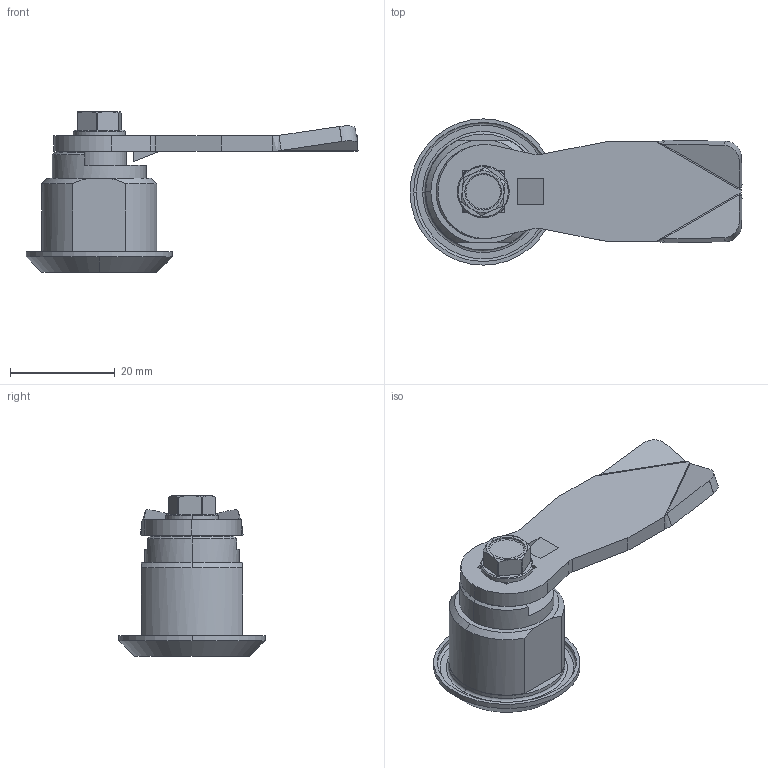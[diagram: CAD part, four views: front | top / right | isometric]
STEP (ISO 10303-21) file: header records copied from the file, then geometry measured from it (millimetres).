
FILE_DESCRIPTION (( 'STEP AP214' ), '1' );
FILE_NAME ('ZZR19.STEP', '2010-02-22T15:53:15', ( '£ukaszC' ), ( '' ), 'SwSTEP 2.0', 'SolidWorks 2008', '' );
FILE_SCHEMA (( 'AUTOMOTIVE_DESIGN' ));
Length unit declared in the file: millimetre
Products named in the file (5): 2.ZZR19.02.00.00_Domyœlna; 2.ZZR19.01.00.00_Domyœlna; M5 x 8_Domyœlna; 1C_J-10018_00_03_00_Domyœlna; ZZR19
Assembly tree (4 placements, depth 2):
  ZZR19
    2.ZZR19.02.00.00_Domyœlna
    M5 x 8_Domyœlna
    2.ZZR19.01.00.00_Domyœlna
    1C_J-10018_00_03_00_Domyœlna
Bounding box: 63.54 x 28 x 30.8 mm (x, y, z)
Volume: 10011.7 mm3; surface area: 8449.8 mm2
Topology: 5 solids, 5 shells, 176 faces, 417 edges, 263 vertices
Faces by surface type: plane 75, cylinder 55, cone 36, torus 6, bspline 4
Entity records: 5964 total; most frequent: CARTESIAN_POINT 1149, DIRECTION 889, ORIENTED_EDGE 834, EDGE_CURVE 417, AXIS2_PLACEMENT_3D 343, VERTEX_POINT 263, VECTOR 203, LINE 203
